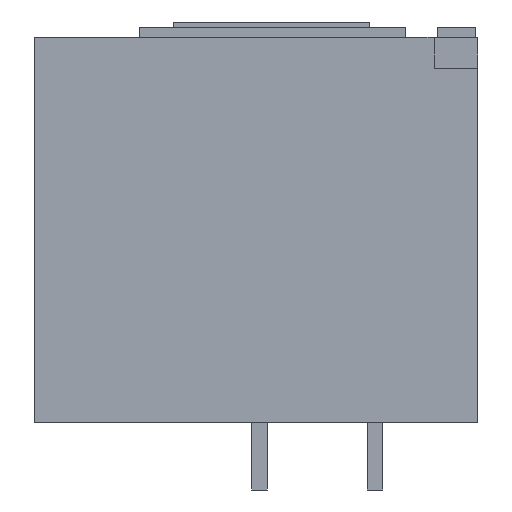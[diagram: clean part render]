
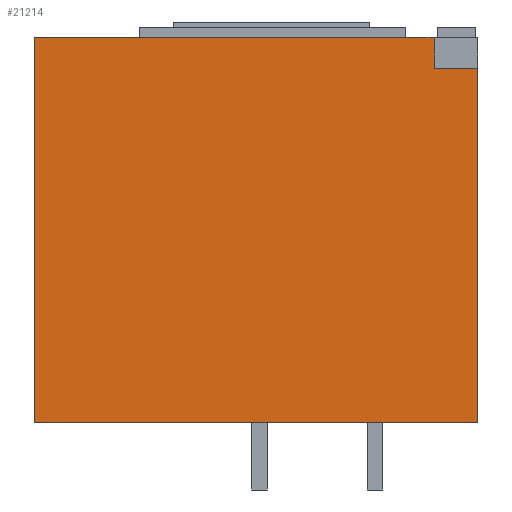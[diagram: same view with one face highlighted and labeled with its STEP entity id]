
A CAD part, left-side view. The second image highlights one B-rep face of the part: STEP entity #21214.
In plain terms, the highlighted planar face has unit normal (-1, 0, 0).
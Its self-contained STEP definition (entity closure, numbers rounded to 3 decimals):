
#2086 = DIRECTION ( 'NONE',  ( -1., 0., 0. ) ) ;
#2175 = VERTEX_POINT ( 'NONE', #27500 ) ;
#2635 = DIRECTION ( 'NONE',  ( 0., -1., 0. ) ) ;
#4483 = EDGE_CURVE ( 'NONE', #33289, #5702, #13357, .T. ) ;
#4612 = VECTOR ( 'NONE', #5720, 1000. ) ;
#4773 = ORIENTED_EDGE ( 'NONE', *, *, #34644, .T. ) ;
#5702 = VERTEX_POINT ( 'NONE', #24199 ) ;
#5720 = DIRECTION ( 'NONE',  ( 0., 0., 1. ) ) ;
#7935 = EDGE_CURVE ( 'NONE', #40330, #26075, #15156, .T. ) ;
#8267 = ORIENTED_EDGE ( 'NONE', *, *, #32254, .F. ) ;
#9530 = AXIS2_PLACEMENT_3D ( 'NONE', #20826, #2086, #23951 ) ;
#11163 = EDGE_LOOP ( 'NONE', ( #8267, #24795, #4773, #15325, #17036, #32545 ) ) ;
#12824 = VECTOR ( 'NONE', #24600, 1000. ) ;
#13065 = CARTESIAN_POINT ( 'NONE',  ( -167.5, 42.5, -30. ) ) ;
#13211 = VECTOR ( 'NONE', #17010, 1000. ) ;
#13357 = LINE ( 'NONE', #13871, #39124 ) ;
#13785 = LINE ( 'NONE', #40069, #12824 ) ;
#13871 = CARTESIAN_POINT ( 'NONE',  ( -167.5, 42.5, -373.5 ) ) ;
#15156 = LINE ( 'NONE', #35647, #38051 ) ;
#15325 = ORIENTED_EDGE ( 'NONE', *, *, #29632, .T. ) ;
#16571 = LINE ( 'NONE', #21348, #39390 ) ;
#17010 = DIRECTION ( 'NONE',  ( 0., -1., 0. ) ) ;
#17018 = DIRECTION ( 'NONE',  ( 0., 0., 1. ) ) ;
#17036 = ORIENTED_EDGE ( 'NONE', *, *, #23777, .F. ) ;
#20826 = CARTESIAN_POINT ( 'NONE',  ( -167.5, 0., -373.5 ) ) ;
#21214 = ADVANCED_FACE ( 'NONE', ( #24886 ), #36307, .T. ) ;
#21348 = CARTESIAN_POINT ( 'NONE',  ( -167.5, 430.001, -30. ) ) ;
#23777 = EDGE_CURVE ( 'NONE', #33289, #39646, #16571, .T. ) ;
#23951 = DIRECTION ( 'NONE',  ( 0., -1., 0. ) ) ;
#23976 = CARTESIAN_POINT ( 'NONE',  ( -167.5, 0., -30. ) ) ;
#24199 = CARTESIAN_POINT ( 'NONE',  ( -167.5, 42.5, 0. ) ) ;
#24415 = CARTESIAN_POINT ( 'NONE',  ( -167.5, 0., -373.5 ) ) ;
#24600 = DIRECTION ( 'NONE',  ( 0., -1., 0. ) ) ;
#24795 = ORIENTED_EDGE ( 'NONE', *, *, #7935, .F. ) ;
#24886 = FACE_OUTER_BOUND ( 'NONE', #11163, .T. ) ;
#26075 = VERTEX_POINT ( 'NONE', #29334 ) ;
#27500 = CARTESIAN_POINT ( 'NONE',  ( -167.5, 0., -373.5 ) ) ;
#28510 = LINE ( 'NONE', #24415, #4612 ) ;
#29334 = CARTESIAN_POINT ( 'NONE',  ( -167.5, 430., 0. ) ) ;
#29509 = DIRECTION ( 'NONE',  ( 0., 0., 1. ) ) ;
#29632 = EDGE_CURVE ( 'NONE', #2175, #39646, #28510, .T. ) ;
#30802 = CARTESIAN_POINT ( 'NONE',  ( -167.5, 430., -373.5 ) ) ;
#32254 = EDGE_CURVE ( 'NONE', #26075, #5702, #13785, .T. ) ;
#32545 = ORIENTED_EDGE ( 'NONE', *, *, #4483, .T. ) ;
#33289 = VERTEX_POINT ( 'NONE', #13065 ) ;
#34644 = EDGE_CURVE ( 'NONE', #40330, #2175, #36080, .T. ) ;
#35631 = CARTESIAN_POINT ( 'NONE',  ( -167.5, 0., -373.5 ) ) ;
#35647 = CARTESIAN_POINT ( 'NONE',  ( -167.5, 430., -373.5 ) ) ;
#36080 = LINE ( 'NONE', #35631, #13211 ) ;
#36307 = PLANE ( 'NONE',  #9530 ) ;
#38051 = VECTOR ( 'NONE', #29509, 1000. ) ;
#39124 = VECTOR ( 'NONE', #17018, 1000. ) ;
#39390 = VECTOR ( 'NONE', #2635, 1000. ) ;
#39646 = VERTEX_POINT ( 'NONE', #23976 ) ;
#40069 = CARTESIAN_POINT ( 'NONE',  ( -167.5, 0., 0. ) ) ;
#40330 = VERTEX_POINT ( 'NONE', #30802 ) ;
